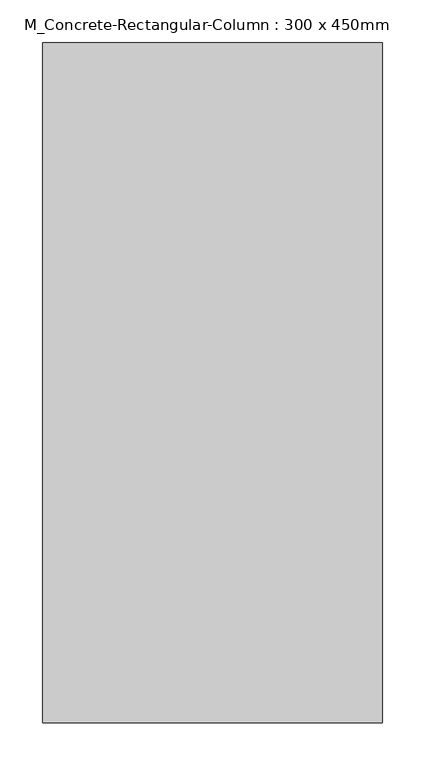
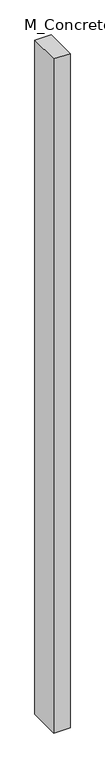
"""IFC4 building model written with IfcOpenShell, lengths in millimetres: column geometry, M_Concrete-Rectangular-Column : 300 x 450mm."""

from ifc_helpers import new_model, si_unit, frame, origin, place, context, project, spatial, polyline, outline, extrude, source, transform, mapped, element, save


def m_concrete_rectangular_column_300_x_450mm_010d7cc1(model_context):
    return source(origin(), model_context, "Body", "SweptSolid", [
        extrude(outline(polyline([(200.0, 400.0), (200.0, -400.0), (-200.0, -400.0), (-200.0, 400.0), (200.0, 400.0)])), frame((0.0, 0.0, -17500.0), z_axis=(0.0, 0.0, 1.0), x_axis=(1.0, 0.0, 0.0)), (0.0, 0.0, 1.0), 17500.0),
    ])


if __name__ == "__main__":
    model = new_model("IFC4")
    model_context = context("Model", 3, world=origin())
    ifc_project = project(units=[si_unit("LENGTHUNIT", "METRE", prefix="MILLI")], contexts=[model_context])
    site = spatial("IfcSite", under=ifc_project)
    building = spatial("IfcBuilding", under=site)
    placement = place(None, origin())
    m_concrete_rectangular_column_300_x_450mm_shape = m_concrete_rectangular_column_300_x_450mm_010d7cc1(model_context)
    element("IfcColumn", 1, ObjectType="M_Concrete-Rectangular-Column : 300 x 450mm", at=placement, inside=building, context=model_context, shape_type="MappedRepresentation", body=[
        mapped(m_concrete_rectangular_column_300_x_450mm_shape, transform((0.0, 0.0, 0.0), x_axis=(1.0, 0.0, 0.0), y_axis=(0.0, 1.0, 0.0), z_axis=(0.0, 0.0, 1.0))),
    ])
    save(model, "model.ifc")
